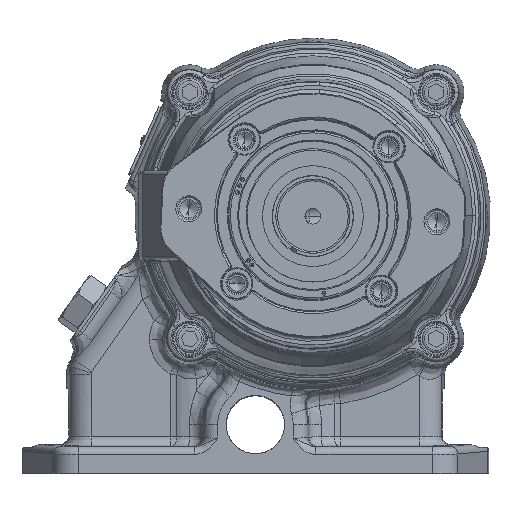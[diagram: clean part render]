
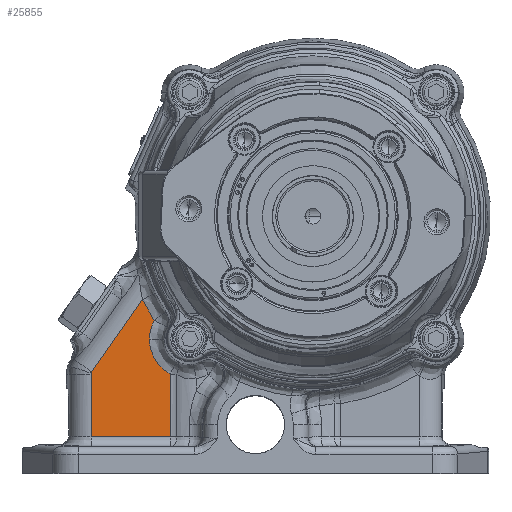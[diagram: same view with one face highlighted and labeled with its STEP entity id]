
A CAD part, top view. The second image highlights one B-rep face of the part: STEP entity #25855.
In plain terms, the highlighted planar face has unit normal (0, 0, 1).
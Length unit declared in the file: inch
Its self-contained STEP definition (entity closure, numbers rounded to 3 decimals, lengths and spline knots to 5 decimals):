
#821 = B_SPLINE_CURVE_WITH_KNOTS ( 'NONE', 3,
 ( #78832, #24802, #53249, #89446 ),
 .UNSPECIFIED., .F., .F.,
 ( 4, 4 ),
 ( 0., 1. ),
 .UNSPECIFIED. ) ;
#2490 = CARTESIAN_POINT ( 'NONE',  ( -1.69968, -0.00425, 1.3875 ) ) ;
#3095 = CARTESIAN_POINT ( 'NONE',  ( -1.90515, 0.02832, 1.3875 ) ) ;
#3444 = ORIENTED_EDGE ( 'NONE', *, *, #58360, .T. ) ;
#3502 = ORIENTED_EDGE ( 'NONE', *, *, #108054, .T. ) ;
#4107 = VERTEX_POINT ( 'NONE', #53086 ) ;
#4601 = CARTESIAN_POINT ( 'NONE',  ( -2.36601, 0.63873, 1.3875 ) ) ;
#5957 = CARTESIAN_POINT ( 'NONE',  ( -2.3539, 0.52969, 1.3875 ) ) ;
#6045 = CARTESIAN_POINT ( 'NONE',  ( -2.15292, 0.17899, 1.3875 ) ) ;
#6627 = CARTESIAN_POINT ( 'NONE',  ( -2.15985, 0.1856, 1.3875 ) ) ;
#6798 = ORIENTED_EDGE ( 'NONE', *, *, #95029, .T. ) ;
#7292 = B_SPLINE_CURVE_WITH_KNOTS ( 'NONE', 3,
 ( #112799, #2490, #38672, #29190, #57068, #76069, #84371, #65393, #67157, #3095, #103310, #39273, #67760, #103911, #22643, #6045, #52859, #6627, #106842, #97381, #87907, #104501 ),
 .UNSPECIFIED., .F., .F.,
 ( 4, 1, 1, 1, 1, 2, 2, 2, 1, 1, 1, 1, 2, 2, 4 ),
 ( 0., 0.125, 0.1875, 0.21875, 0.23437, 0.24219, 0.25, 0.5, 0.625, 0.6875, 0.71875, 0.73437, 0.74219, 0.75, 1. ),
 .UNSPECIFIED. ) ;
#8619 = CARTESIAN_POINT ( 'NONE',  ( -3.03517, 2.28945, 1.3875 ) ) ;
#8800 = DIRECTION ( 'NONE',  ( 0., 0., 1. ) ) ;
#9053 = CARTESIAN_POINT ( 'NONE',  ( -2.82165, -0.66952, 1.3875 ) ) ;
#11678 = VERTEX_POINT ( 'NONE', #51272 ) ;
#11951 = CARTESIAN_POINT ( 'NONE',  ( -1.67009, -0.00335, 1.3875 ) ) ;
#13539 = CARTESIAN_POINT ( 'NONE',  ( 0.93723, 0.319, 1.3875 ) ) ;
#14260 = CARTESIAN_POINT ( 'NONE',  ( -2.36326, 0.58363, 1.3875 ) ) ;
#20235 = VERTEX_POINT ( 'NONE', #11951 ) ;
#20513 = VECTOR ( 'NONE', #48521, 39.37008 ) ;
#21241 = LINE ( 'NONE', #13539, #20513 ) ;
#21275 = VERTEX_POINT ( 'NONE', #76633 ) ;
#21647 = DIRECTION ( 'NONE',  ( -0.074, -0.997, 0. ) ) ;
#21870 = VERTEX_POINT ( 'NONE', #109959 ) ;
#22643 = CARTESIAN_POINT ( 'NONE',  ( -2.14309, 0.16988, 1.3875 ) ) ;
#23435 = CARTESIAN_POINT ( 'NONE',  ( -2.71359, 0.83497, 1.3875 ) ) ;
#24802 = CARTESIAN_POINT ( 'NONE',  ( -2.82329, -0.66259, 1.3875 ) ) ;
#25855 = ADVANCED_FACE ( 'NONE', ( #69993 ), #63952, .T. ) ;
#28374 = CARTESIAN_POINT ( 'NONE',  ( -4.18096, 1.60727, 1.3875 ) ) ;
#29190 = CARTESIAN_POINT ( 'NONE',  ( -1.79475, 0.00409, 1.3875 ) ) ;
#30271 = VERTEX_POINT ( 'NONE', #97878 ) ;
#30749 = CARTESIAN_POINT ( 'NONE',  ( -2.71359, 0.83497, 1.3875 ) ) ;
#38672 = CARTESIAN_POINT ( 'NONE',  ( -1.74379, -0.00273, 1.3875 ) ) ;
#39273 = CARTESIAN_POINT ( 'NONE',  ( -2.04276, 0.09442, 1.3875 ) ) ;
#39984 = CARTESIAN_POINT ( 'NONE',  ( -2.27523, -1.59362, 1.3875 ) ) ;
#40106 = ORIENTED_EDGE ( 'NONE', *, *, #64700, .F. ) ;
#40407 = EDGE_CURVE ( 'NONE', #21275, #21870, #821, .T. ) ;
#44914 = B_SPLINE_CURVE_WITH_KNOTS ( 'NONE', 3,
 ( #9053, #64786, #108666, #90905 ),
 .UNSPECIFIED., .F., .F.,
 ( 4, 4 ),
 ( 0., 1. ),
 .UNSPECIFIED. ) ;
#47055 = EDGE_CURVE ( 'NONE', #11678, #20235, #53696, .T. ) ;
#48521 = DIRECTION ( 'NONE',  ( 0.859, 0.512, 0. ) ) ;
#49055 = EDGE_CURVE ( 'NONE', #111516, #80341, #105549, .T. ) ;
#49825 = CARTESIAN_POINT ( 'NONE',  ( -2.27168, 0.32661, 1.3875 ) ) ;
#51272 = CARTESIAN_POINT ( 'NONE',  ( -1.12943, -0.91144, 1.3875 ) ) ;
#52859 = CARTESIAN_POINT ( 'NONE',  ( -2.15708, 0.18295, 1.3875 ) ) ;
#53086 = CARTESIAN_POINT ( 'NONE',  ( -2.27168, 0.32661, 1.3875 ) ) ;
#53249 = CARTESIAN_POINT ( 'NONE',  ( -2.82386, -0.65541, 1.3875 ) ) ;
#53569 = EDGE_CURVE ( 'NONE', #20235, #4107, #7292, .T. ) ;
#53696 = LINE ( 'NONE', #8619, #54100 ) ;
#54100 = VECTOR ( 'NONE', #64920, 39.37008 ) ;
#56589 = EDGE_CURVE ( 'NONE', #80341, #21870, #102917, .T. ) ;
#57068 = CARTESIAN_POINT ( 'NONE',  ( -1.8201, 0.00876, 1.3875 ) ) ;
#58360 = EDGE_CURVE ( 'NONE', #4107, #111516, #104195, .T. ) ;
#62916 = CARTESIAN_POINT ( 'NONE',  ( -2.60181, 0.76232, 1.3875 ) ) ;
#63952 = PLANE ( 'NONE',  #113625 ) ;
#64700 = EDGE_CURVE ( 'NONE', #85213, #30271, #111378, .T. ) ;
#64786 = CARTESIAN_POINT ( 'NONE',  ( -2.82001, -0.6765, 1.3875 ) ) ;
#64920 = DIRECTION ( 'NONE',  ( -0.512, 0.859, 0. ) ) ;
#65393 = CARTESIAN_POINT ( 'NONE',  ( -1.84176, 0.01343, 1.3875 ) ) ;
#66986 = ORIENTED_EDGE ( 'NONE', *, *, #47055, .T. ) ;
#67157 = CARTESIAN_POINT ( 'NONE',  ( -1.8435, 0.01383, 1.3875 ) ) ;
#67760 = CARTESIAN_POINT ( 'NONE',  ( -2.0813, 0.11908, 1.3875 ) ) ;
#69499 = ORIENTED_EDGE ( 'NONE', *, *, #53569, .T. ) ;
#69993 = FACE_OUTER_BOUND ( 'NONE', #79067, .T. ) ;
#70693 = CARTESIAN_POINT ( 'NONE',  ( -2.36601, 0.63873, 1.3875 ) ) ;
#70700 = VECTOR ( 'NONE', #75255, 39.37008 ) ;
#75255 = DIRECTION ( 'NONE',  ( -0.512, 0.859, 0. ) ) ;
#76069 = CARTESIAN_POINT ( 'NONE',  ( -1.83274, 0.01141, 1.3875 ) ) ;
#76633 = CARTESIAN_POINT ( 'NONE',  ( -2.82165, -0.66952, 1.3875 ) ) ;
#78832 = CARTESIAN_POINT ( 'NONE',  ( -2.82165, -0.66952, 1.3875 ) ) ;
#79012 = CARTESIAN_POINT ( 'NONE',  ( -2.48596, 0.69691, 1.3875 ) ) ;
#79067 = EDGE_LOOP ( 'NONE', ( #40106, #3502, #66986, #69499, #3444, #89978, #106853, #114084, #6798 ) ) ;
#80341 = VERTEX_POINT ( 'NONE', #30749 ) ;
#84371 = CARTESIAN_POINT ( 'NONE',  ( -1.83816, 0.01261, 1.3875 ) ) ;
#85213 = VERTEX_POINT ( 'NONE', #39984 ) ;
#85453 = CARTESIAN_POINT ( 'NONE',  ( -2.32198, 0.42411, 1.3875 ) ) ;
#87233 = CARTESIAN_POINT ( 'NONE',  ( -2.29989, 0.374, 1.3875 ) ) ;
#87907 = CARTESIAN_POINT ( 'NONE',  ( -2.24138, 0.27572, 1.3875 ) ) ;
#89446 = CARTESIAN_POINT ( 'NONE',  ( -2.82333, -0.64831, 1.3875 ) ) ;
#89978 = ORIENTED_EDGE ( 'NONE', *, *, #49055, .T. ) ;
#90905 = CARTESIAN_POINT ( 'NONE',  ( -2.81368, -0.68924, 1.3875 ) ) ;
#93920 = VECTOR ( 'NONE', #21647, 39.37008 ) ;
#95029 = EDGE_CURVE ( 'NONE', #21275, #30271, #44914, .T. ) ;
#97381 = CARTESIAN_POINT ( 'NONE',  ( -2.20502, 0.2296, 1.3875 ) ) ;
#97878 = CARTESIAN_POINT ( 'NONE',  ( -2.81368, -0.68924, 1.3875 ) ) ;
#101275 = CARTESIAN_POINT ( 'NONE',  ( -0.9685, 3.51989, 1.3875 ) ) ;
#102917 = LINE ( 'NONE', #23435, #93920 ) ;
#103310 = CARTESIAN_POINT ( 'NONE',  ( -1.962, 0.05013, 1.3875 ) ) ;
#103911 = CARTESIAN_POINT ( 'NONE',  ( -2.12303, 0.15221, 1.3875 ) ) ;
#104195 = B_SPLINE_CURVE_WITH_KNOTS ( 'NONE', 3,
 ( #49825, #87233, #85453, #5957, #14260, #113315 ),
 .UNSPECIFIED., .F., .F.,
 ( 4, 2, 4 ),
 ( 0., 0.5, 1. ),
 .UNSPECIFIED. ) ;
#104501 = CARTESIAN_POINT ( 'NONE',  ( -2.27168, 0.32661, 1.3875 ) ) ;
#105549 = B_SPLINE_CURVE_WITH_KNOTS ( 'NONE', 3,
 ( #70693, #79012, #62916, #115137 ),
 .UNSPECIFIED., .F., .F.,
 ( 4, 4 ),
 ( 0., 1. ),
 .UNSPECIFIED. ) ;
#106842 = CARTESIAN_POINT ( 'NONE',  ( -2.16128, 0.18698, 1.3875 ) ) ;
#106853 = ORIENTED_EDGE ( 'NONE', *, *, #56589, .T. ) ;
#107842 = DIRECTION ( 'NONE',  ( -0.512, 0.859, 0. ) ) ;
#108054 = EDGE_CURVE ( 'NONE', #85213, #11678, #21241, .T. ) ;
#108666 = CARTESIAN_POINT ( 'NONE',  ( -2.81735, -0.68308, 1.3875 ) ) ;
#109959 = CARTESIAN_POINT ( 'NONE',  ( -2.82333, -0.64831, 1.3875 ) ) ;
#111378 = LINE ( 'NONE', #28374, #70700 ) ;
#111516 = VERTEX_POINT ( 'NONE', #4601 ) ;
#112799 = CARTESIAN_POINT ( 'NONE',  ( -1.67009, -0.00335, 1.3875 ) ) ;
#113315 = CARTESIAN_POINT ( 'NONE',  ( -2.36601, 0.63873, 1.3875 ) ) ;
#113625 = AXIS2_PLACEMENT_3D ( 'NONE', #101275, #8800, #107842 ) ;
#114084 = ORIENTED_EDGE ( 'NONE', *, *, #40407, .F. ) ;
#115137 = CARTESIAN_POINT ( 'NONE',  ( -2.71359, 0.83497, 1.3875 ) ) ;
